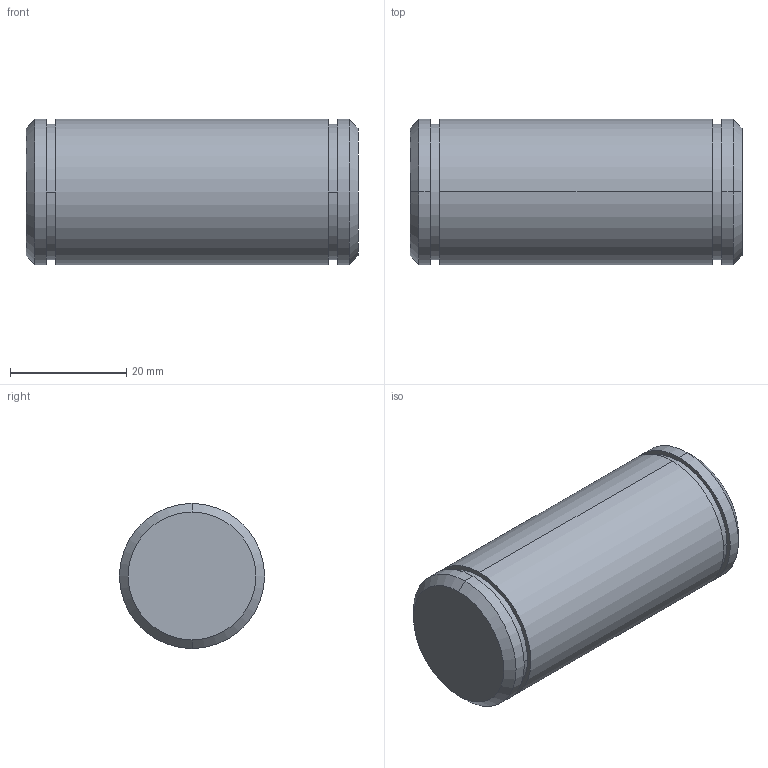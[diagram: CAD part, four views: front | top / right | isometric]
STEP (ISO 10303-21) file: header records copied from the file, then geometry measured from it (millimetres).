
FILE_DESCRIPTION (( 'STEP AP203' ), '1' );
FILE_NAME ('Bolzen Sicherungsring B M24.STEP', '2018-02-22T05:38:20', ( 'install' ), ( 'Hewlett-Packard Company' ), 'SwSTEP 2.0', 'SolidWorks 2017', '' );
FILE_SCHEMA (( 'CONFIG_CONTROL_DESIGN' ));
Length unit declared in the file: millimetre
Products named in the file (1): Bolzen Sicherungsring B M24
Bounding box: 57.2 x 25 x 25 mm (x, y, z)
Volume: 27713.7 mm3; surface area: 5557.5 mm2
Topology: 1 solids, 1 shells, 20 faces, 38 edges, 24 vertices
Faces by surface type: cylinder 10, plane 6, cone 4
Entity records: 591 total; most frequent: DIRECTION 104, CARTESIAN_POINT 83, ORIENTED_EDGE 76, AXIS2_PLACEMENT_3D 45, EDGE_CURVE 38, VERTEX_POINT 24, EDGE_LOOP 24, CIRCLE 24
